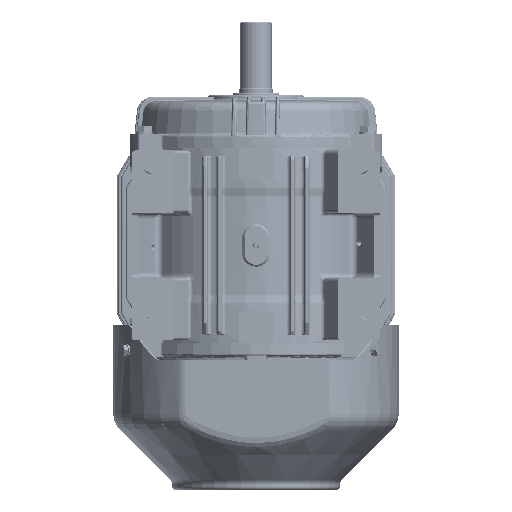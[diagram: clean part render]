
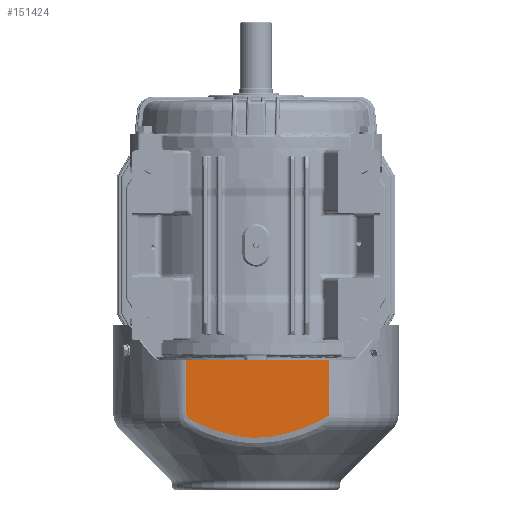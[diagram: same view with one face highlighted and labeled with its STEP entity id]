
A CAD part, front view. The second image highlights one B-rep face of the part: STEP entity #151424.
In plain terms, the highlighted planar face has unit normal (0, -1, 0).
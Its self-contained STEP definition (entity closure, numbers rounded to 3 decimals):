
#4174 = CARTESIAN_POINT ( 'NONE',  ( -4.777, -4.311, -4.055 ) ) ;
#4193 = CARTESIAN_POINT ( 'NONE',  ( -2.451, -4.311, -5.963 ) ) ;
#6347 = CARTESIAN_POINT ( 'NONE',  ( 2.588, -4.311, -5.976 ) ) ;
#8540 = CARTESIAN_POINT ( 'NONE',  ( 1.314, -4.311, -6.566 ) ) ;
#8756 = CARTESIAN_POINT ( 'NONE',  ( -2.404, -4.311, -6.063 ) ) ;
#8836 = DIRECTION ( 'NONE',  ( -1., 0., 0. ) ) ;
#10253 = CARTESIAN_POINT ( 'NONE',  ( -2.452, -4.311, -5.95 ) ) ;
#11566 = CARTESIAN_POINT ( 'NONE',  ( -2.277, -4.311, -6.16 ) ) ;
#13107 = CARTESIAN_POINT ( 'NONE',  ( 1.619, -4.311, -6.462 ) ) ;
#22341 = LINE ( 'NONE', #240638, #101214 ) ;
#24901 = CARTESIAN_POINT ( 'NONE',  ( -2.452, -4.311, -8.622 ) ) ;
#28948 = CARTESIAN_POINT ( 'NONE',  ( -2.452, -4.311, -5.938 ) ) ;
#34809 = CARTESIAN_POINT ( 'NONE',  ( -0.183, -4.311, -6.78 ) ) ;
#35827 = VERTEX_POINT ( 'NONE', #83169 ) ;
#36355 = CARTESIAN_POINT ( 'NONE',  ( 1.365, -4.311, -6.549 ) ) ;
#45616 = ORIENTED_EDGE ( 'NONE', *, *, #209899, .T. ) ;
#46646 = DIRECTION ( 'NONE',  ( 0., 0., -1. ) ) ;
#47862 = VERTEX_POINT ( 'NONE', #190864 ) ;
#55465 = EDGE_CURVE ( 'NONE', #159439, #178257, #104354, .T. ) ;
#56804 = CARTESIAN_POINT ( 'NONE',  ( -2.32, -4.311, -6.136 ) ) ;
#58126 = CARTESIAN_POINT ( 'NONE',  ( -2.086, -4.311, -6.257 ) ) ;
#61166 = CARTESIAN_POINT ( 'NONE',  ( 1.16, -4.311, -6.614 ) ) ;
#70489 = B_SPLINE_CURVE_WITH_KNOTS ( 'NONE', 3,
 ( #11566, #58126, #293369, #199000, #177350, #126260, #175812, #291846, #197495, #220751, #225329, #250100, #34809, #132346, #84385, #245519, #129282, #226869, #271784, #61166, #294920, #8540, #36355, #13107, #152533, #248543, #130802, #268723 ),
 .UNSPECIFIED., .F., .F.,
 ( 4, 2, 2, 2, 2, 2, 2, 2, 2, 2, 2, 2, 2, 4 ),
 ( 0., 0.016, 0.032, 0.048, 0.052, 0.054, 0.056, 0.064, 0.08, 0.088, 0.092, 0.096, 0.112, 0.128 ),
 .UNSPECIFIED. ) ;
#74940 = ORIENTED_EDGE ( 'NONE', *, *, #233650, .T. ) ;
#78514 = CARTESIAN_POINT ( 'NONE',  ( -2.361, -4.311, -6.107 ) ) ;
#83169 = CARTESIAN_POINT ( 'NONE',  ( -2.452, -4.311, -4.055 ) ) ;
#84385 = CARTESIAN_POINT ( 'NONE',  ( 0.057, -4.311, -6.786 ) ) ;
#96617 = DIRECTION ( 'NONE',  ( 0., 0., 1. ) ) ;
#101214 = VECTOR ( 'NONE', #96617, 39.37 ) ;
#104354 = B_SPLINE_CURVE_WITH_KNOTS ( 'NONE', 3,
 ( #28948, #10253, #4193, #152739, #151216, #287548, #241181, #104725, #8756, #196213, #78514, #56804, #245733, #123408 ),
 .UNSPECIFIED., .F., .F.,
 ( 4, 2, 2, 2, 2, 2, 4 ),
 ( 0., 0.001, 0.002, 0.003, 0.004, 0.006, 0.008 ),
 .UNSPECIFIED. ) ;
#104725 = CARTESIAN_POINT ( 'NONE',  ( -2.412, -4.311, -6.053 ) ) ;
#105327 = CARTESIAN_POINT ( 'NONE',  ( -2.452, -4.311, -5.938 ) ) ;
#122188 = EDGE_LOOP ( 'NONE', ( #295716, #74940, #45616, #279780, #186595, #148631 ) ) ;
#123408 = CARTESIAN_POINT ( 'NONE',  ( -2.277, -4.311, -6.16 ) ) ;
#124998 = CARTESIAN_POINT ( 'NONE',  ( -4.777, -4.311, -8.622 ) ) ;
#126260 = CARTESIAN_POINT ( 'NONE',  ( -0.897, -4.311, -6.686 ) ) ;
#129282 = CARTESIAN_POINT ( 'NONE',  ( 0.587, -4.311, -6.745 ) ) ;
#130802 = CARTESIAN_POINT ( 'NONE',  ( 2.398, -4.311, -6.1 ) ) ;
#132346 = CARTESIAN_POINT ( 'NONE',  ( -0.049, -4.311, -6.786 ) ) ;
#148230 = DIRECTION ( 'NONE',  ( 0., 1., 0. ) ) ;
#148631 = ORIENTED_EDGE ( 'NONE', *, *, #55465, .T. ) ;
#151216 = CARTESIAN_POINT ( 'NONE',  ( -2.442, -4.311, -5.999 ) ) ;
#151424 = ADVANCED_FACE ( 'NONE', ( #295207 ), #199283, .F. ) ;
#152533 = CARTESIAN_POINT ( 'NONE',  ( 1.817, -4.311, -6.38 ) ) ;
#152739 = CARTESIAN_POINT ( 'NONE',  ( -2.446, -4.311, -5.987 ) ) ;
#159439 = VERTEX_POINT ( 'NONE', #105327 ) ;
#160135 = B_SPLINE_CURVE_WITH_KNOTS ( 'NONE', 3,
 ( #233046, #6347, #163326, #236117 ),
 .UNSPECIFIED., .F., .F.,
 ( 4, 4 ),
 ( 0.927, 1. ),
 .UNSPECIFIED. ) ;
#163326 = CARTESIAN_POINT ( 'NONE',  ( 2.588, -4.311, -5.957 ) ) ;
#165331 = LINE ( 'NONE', #4174, #280549 ) ;
#166854 = DIRECTION ( 'NONE',  ( 1., 0., 0. ) ) ;
#168167 = CARTESIAN_POINT ( 'NONE',  ( -2.277, -4.311, -6.16 ) ) ;
#175812 = CARTESIAN_POINT ( 'NONE',  ( -0.69, -4.311, -6.729 ) ) ;
#177350 = CARTESIAN_POINT ( 'NONE',  ( -1.303, -4.311, -6.574 ) ) ;
#178257 = VERTEX_POINT ( 'NONE', #168167 ) ;
#178326 = EDGE_CURVE ( 'NONE', #178257, #212519, #70489, .T. ) ;
#186595 = ORIENTED_EDGE ( 'NONE', *, *, #220764, .T. ) ;
#190864 = CARTESIAN_POINT ( 'NONE',  ( 2.587, -4.311, -4.055 ) ) ;
#196213 = CARTESIAN_POINT ( 'NONE',  ( -2.379, -4.311, -6.091 ) ) ;
#197495 = CARTESIAN_POINT ( 'NONE',  ( -0.371, -4.311, -6.767 ) ) ;
#197840 = LINE ( 'NONE', #24901, #303601 ) ;
#199000 = CARTESIAN_POINT ( 'NONE',  ( -1.502, -4.311, -6.505 ) ) ;
#199283 = PLANE ( 'NONE',  #242367 ) ;
#209899 = EDGE_CURVE ( 'NONE', #215592, #47862, #22341, .T. ) ;
#212519 = VERTEX_POINT ( 'NONE', #267619 ) ;
#215592 = VERTEX_POINT ( 'NONE', #282860 ) ;
#220751 = CARTESIAN_POINT ( 'NONE',  ( -0.291, -4.311, -6.774 ) ) ;
#220764 = EDGE_CURVE ( 'NONE', #35827, #159439, #197840, .T. ) ;
#225329 = CARTESIAN_POINT ( 'NONE',  ( -0.264, -4.311, -6.776 ) ) ;
#226869 = CARTESIAN_POINT ( 'NONE',  ( 0.9, -4.311, -6.682 ) ) ;
#233046 = CARTESIAN_POINT ( 'NONE',  ( 2.586, -4.311, -5.995 ) ) ;
#233650 = EDGE_CURVE ( 'NONE', #212519, #215592, #160135, .T. ) ;
#236117 = CARTESIAN_POINT ( 'NONE',  ( 2.587, -4.311, -5.938 ) ) ;
#240638 = CARTESIAN_POINT ( 'NONE',  ( 2.587, -4.311, 3.863 ) ) ;
#241181 = CARTESIAN_POINT ( 'NONE',  ( -2.426, -4.311, -6.032 ) ) ;
#242367 = AXIS2_PLACEMENT_3D ( 'NONE', #124998, #148230, #8836 ) ;
#245519 = CARTESIAN_POINT ( 'NONE',  ( 0.376, -4.311, -6.772 ) ) ;
#245733 = CARTESIAN_POINT ( 'NONE',  ( -2.299, -4.311, -6.149 ) ) ;
#248543 = CARTESIAN_POINT ( 'NONE',  ( 2.207, -4.311, -6.199 ) ) ;
#250100 = CARTESIAN_POINT ( 'NONE',  ( -0.21, -4.311, -6.779 ) ) ;
#252210 = EDGE_CURVE ( 'NONE', #35827, #47862, #165331, .T. ) ;
#267619 = CARTESIAN_POINT ( 'NONE',  ( 2.586, -4.311, -5.995 ) ) ;
#268723 = CARTESIAN_POINT ( 'NONE',  ( 2.586, -4.311, -5.995 ) ) ;
#271784 = CARTESIAN_POINT ( 'NONE',  ( 1.004, -4.311, -6.657 ) ) ;
#279780 = ORIENTED_EDGE ( 'NONE', *, *, #252210, .F. ) ;
#280549 = VECTOR ( 'NONE', #166854, 39.37 ) ;
#282860 = CARTESIAN_POINT ( 'NONE',  ( 2.587, -4.311, -5.938 ) ) ;
#287548 = CARTESIAN_POINT ( 'NONE',  ( -2.432, -4.311, -6.022 ) ) ;
#291846 = CARTESIAN_POINT ( 'NONE',  ( -0.425, -4.311, -6.762 ) ) ;
#293369 = CARTESIAN_POINT ( 'NONE',  ( -1.894, -4.311, -6.347 ) ) ;
#294920 = CARTESIAN_POINT ( 'NONE',  ( 1.211, -4.311, -6.598 ) ) ;
#295207 = FACE_OUTER_BOUND ( 'NONE', #122188, .T. ) ;
#295716 = ORIENTED_EDGE ( 'NONE', *, *, #178326, .T. ) ;
#303601 = VECTOR ( 'NONE', #46646, 39.37 ) ;
